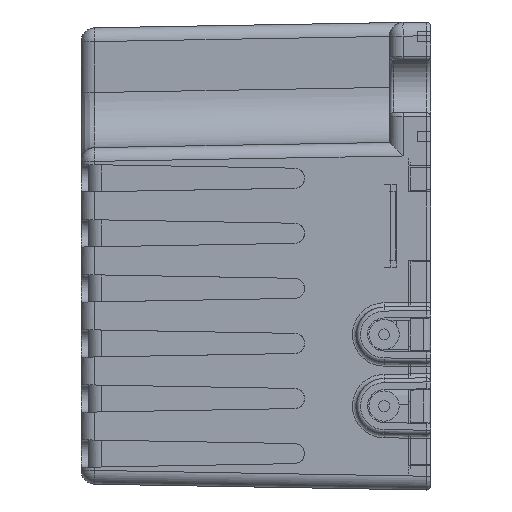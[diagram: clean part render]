
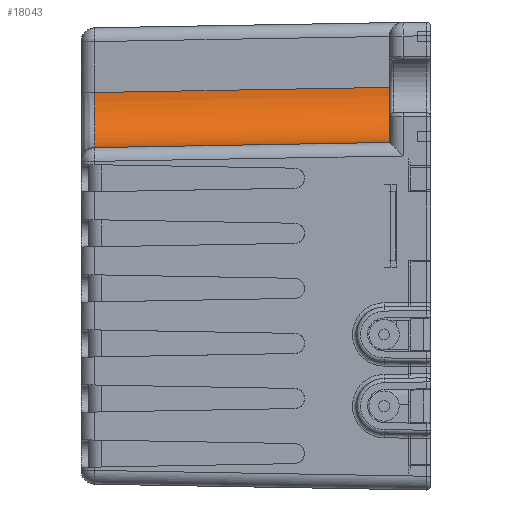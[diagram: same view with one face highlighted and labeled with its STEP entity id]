
A CAD part, left-side view. The second image highlights one B-rep face of the part: STEP entity #18043.
In plain terms, the highlighted cylindrical face has radius 4 mm (diameter 8 mm), a partial arc.
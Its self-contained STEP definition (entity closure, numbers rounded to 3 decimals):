
#6887=DIRECTION('',(0.017,0.017,1.));
#6888=VECTOR('',#6887,21.424);
#6889=CARTESIAN_POINT('',(4.753,8.752,3.));
#6890=LINE('',#6889,#6888);
#6901=CARTESIAN_POINT('',(4.753,8.752,3.));
#6902=CARTESIAN_POINT('',(5.42,8.752,3.));
#6903=CARTESIAN_POINT('',(6.463,8.463,3.));
#6904=CARTESIAN_POINT('',(7.64,7.64,3.));
#6905=CARTESIAN_POINT('',(8.463,6.463,3.));
#6906=CARTESIAN_POINT('',(8.752,5.42,3.));
#6907=CARTESIAN_POINT('',(8.752,4.753,3.));
#6912=CARTESIAN_POINT('',(9.126,5.127,24.417));
#6913=CARTESIAN_POINT('',(9.126,5.651,24.42));
#6914=CARTESIAN_POINT('',(8.918,6.697,24.423));
#6915=CARTESIAN_POINT('',(8.029,8.029,24.425));
#6916=CARTESIAN_POINT('',(6.697,8.918,24.423));
#6917=CARTESIAN_POINT('',(5.651,9.126,24.42));
#6918=CARTESIAN_POINT('',(5.127,9.126,24.417));
#6937=DIRECTION('',(-0.017,-0.017,-1.));
#6938=VECTOR('',#6937,21.424);
#6939=CARTESIAN_POINT('',(9.126,5.127,24.417));
#6940=LINE('',#6939,#6938);
#10834=CARTESIAN_POINT('',(4.753,8.752,3.));
#10836=VERTEX_POINT('',#10834);
#11260=VERTEX_POINT('',#6912);
#11261=VERTEX_POINT('',#6918);
#11662=CARTESIAN_POINT('',(8.752,4.753,3.));
#11664=VERTEX_POINT('',#11662);
#18031=CARTESIAN_POINT('',(4.699,4.699,
-0.012));
#18032=DIRECTION('',(-0.017,-0.017,-1.));
#18033=DIRECTION('',(-1.,0.,0.017));
#18034=AXIS2_PLACEMENT_3D('',#18031,#18032,#18033);
#18035=CYLINDRICAL_SURFACE('',#18034,4.);
#18037=ORIENTED_EDGE('',*,*,#18036,.T.);
#18038=ORIENTED_EDGE('',*,*,#17979,.F.);
#18039=ORIENTED_EDGE('',*,*,#18023,.T.);
#18040=ORIENTED_EDGE('',*,*,#17879,.F.);
#18041=EDGE_LOOP('',(#18037,#18038,#18039,#18040));
#18042=FACE_OUTER_BOUND('',#18041,.F.);
#18043=ADVANCED_FACE('',(#18042),#18035,.F.);
#6908=B_SPLINE_CURVE_WITH_KNOTS('',3,(#6901,#6902,#6903,#6904,#6905,#6906,
#6907),.UNSPECIFIED.,.F.,.F.,(4,1,1,1,4),(0.,0.25,0.5,0.75,1.),
.UNSPECIFIED.);
#6919=B_SPLINE_CURVE_WITH_KNOTS('',3,(#6912,#6913,#6914,#6915,#6916,#6917,
#6918),.UNSPECIFIED.,.F.,.F.,(4,1,1,1,4),(0.,0.25,0.5,0.75,1.),
.UNSPECIFIED.);
#17879=EDGE_CURVE('',#11260,#11261,#6919,.T.);
#17979=EDGE_CURVE('',#10836,#11664,#6908,.T.);
#18023=EDGE_CURVE('',#10836,#11261,#6890,.T.);
#18036=EDGE_CURVE('',#11260,#11664,#6940,.T.);
